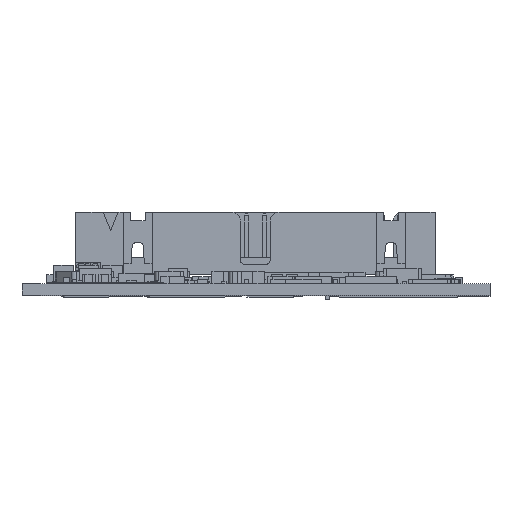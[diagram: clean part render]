
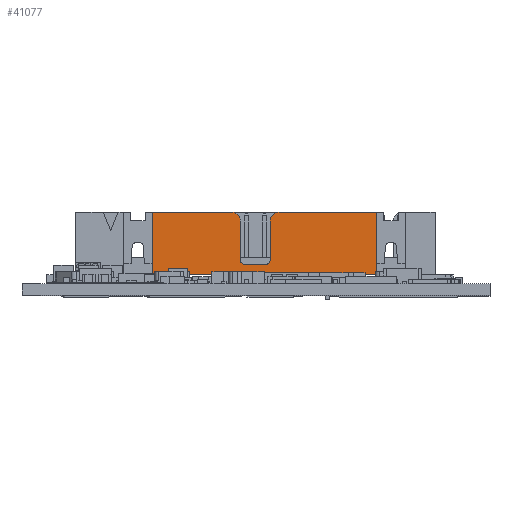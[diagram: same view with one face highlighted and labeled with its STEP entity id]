
A CAD part, top view. The second image highlights one B-rep face of the part: STEP entity #41077.
In plain terms, the highlighted planar face has unit normal (0, 0, 1).
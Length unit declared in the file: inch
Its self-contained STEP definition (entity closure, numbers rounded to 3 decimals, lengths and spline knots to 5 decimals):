
#10382=DIRECTION('',(-1.,0.,0.));
#10383=VECTOR('',#10382,0.4375);
#10384=CARTESIAN_POINT('',(-0.13632,0.46299,
-0.67725));
#10385=LINE('',#10384,#10383);
#10386=CARTESIAN_POINT('',(-0.13632,0.41299,
-0.67725));
#10387=DIRECTION('',(0.,0.,1.));
#10388=DIRECTION('',(1.,0.,0.));
#10389=AXIS2_PLACEMENT_3D('',#10386,#10387,#10388);
#10391=DIRECTION('',(0.,1.,0.));
#10392=VECTOR('',#10391,0.215);
#10393=CARTESIAN_POINT('',(-0.08632,0.19799,
-0.67725));
#10394=LINE('',#10393,#10392);
#10395=CARTESIAN_POINT('',(-0.06132,0.19799,
-0.67725));
#10396=DIRECTION('',(0.,0.,-1.));
#10397=DIRECTION('',(0.,-1.,0.));
#10398=AXIS2_PLACEMENT_3D('',#10395,#10396,#10397);
#10400=DIRECTION('',(-1.,0.,0.));
#10401=VECTOR('',#10400,0.115);
#10402=CARTESIAN_POINT('',(0.05368,0.17299,
-0.67725));
#10403=LINE('',#10402,#10401);
#10404=CARTESIAN_POINT('',(0.05368,0.19799,
-0.67725));
#10405=DIRECTION('',(0.,0.,-1.));
#10406=DIRECTION('',(1.,0.,0.));
#10407=AXIS2_PLACEMENT_3D('',#10404,#10405,#10406);
#10409=CARTESIAN_POINT('',(0.12868,0.41299,
-0.67725));
#10410=DIRECTION('',(0.,0.,1.));
#10411=DIRECTION('',(0.,1.,0.));
#10412=AXIS2_PLACEMENT_3D('',#10409,#10410,#10411);
#10414=DIRECTION('',(-1.,0.,0.));
#10415=VECTOR('',#10414,0.5375);
#10416=CARTESIAN_POINT('',(0.66618,0.46299,
-0.67725));
#10417=LINE('',#10416,#10415);
#10418=DIRECTION('',(0.,1.,0.));
#10419=VECTOR('',#10418,0.347);
#10420=CARTESIAN_POINT('',(0.66618,0.11599,
-0.67725));
#10421=LINE('',#10420,#10419);
#10422=DIRECTION('',(1.,0.,0.));
#10423=VECTOR('',#10422,1.24);
#10424=CARTESIAN_POINT('',(-0.57382,0.11599,
-0.67725));
#10425=LINE('',#10424,#10423);
#10426=DIRECTION('',(0.,1.,0.));
#10427=VECTOR('',#10426,0.347);
#10428=CARTESIAN_POINT('',(-0.57382,0.11599,
-0.67725));
#10429=LINE('',#10428,#10427);
#10902=DIRECTION('',(0.,1.,0.));
#10903=VECTOR('',#10902,0.215);
#10904=CARTESIAN_POINT('',(0.07868,0.19799,
-0.67725));
#10905=LINE('',#10904,#10903);
#24048=CARTESIAN_POINT('',(0.66618,0.11599,
-0.67725));
#24049=VERTEX_POINT('',#24048);
#24050=CARTESIAN_POINT('',(-0.57382,0.11599,
-0.67725));
#24051=VERTEX_POINT('',#24050);
#24319=CARTESIAN_POINT('',(-0.08632,0.41299,
-0.67725));
#24320=CARTESIAN_POINT('',(-0.13632,0.46299,
-0.67725));
#24321=VERTEX_POINT('',#24319);
#24322=VERTEX_POINT('',#24320);
#24343=CARTESIAN_POINT('',(-0.57382,0.46299,
-0.67725));
#24344=VERTEX_POINT('',#24343);
#24413=CARTESIAN_POINT('',(-0.08632,0.19799,
-0.67725));
#24414=VERTEX_POINT('',#24413);
#24421=CARTESIAN_POINT('',(0.66618,0.46299,
-0.67725));
#24422=VERTEX_POINT('',#24421);
#24423=CARTESIAN_POINT('',(0.12868,0.46299,
-0.67725));
#24424=VERTEX_POINT('',#24423);
#24425=CARTESIAN_POINT('',(0.07868,0.41299,
-0.67725));
#24426=VERTEX_POINT('',#24425);
#24427=CARTESIAN_POINT('',(0.07868,0.19799,
-0.67725));
#24428=VERTEX_POINT('',#24427);
#24429=CARTESIAN_POINT('',(0.05368,0.17299,
-0.67725));
#24430=VERTEX_POINT('',#24429);
#24431=CARTESIAN_POINT('',(-0.06132,0.17299,
-0.67725));
#24432=VERTEX_POINT('',#24431);
#41048=CARTESIAN_POINT('',(-0.00382,0.28949,
-0.67725));
#41049=DIRECTION('',(0.,0.,1.));
#41050=DIRECTION('',(1.,0.,0.));
#41051=AXIS2_PLACEMENT_3D('',#41048,#41049,#41050);
#41052=PLANE('',#41051);
#41054=ORIENTED_EDGE('',*,*,#41053,.T.);
#41055=ORIENTED_EDGE('',*,*,#41034,.F.);
#41057=ORIENTED_EDGE('',*,*,#41056,.F.);
#41059=ORIENTED_EDGE('',*,*,#41058,.F.);
#41061=ORIENTED_EDGE('',*,*,#41060,.F.);
#41063=ORIENTED_EDGE('',*,*,#41062,.F.);
#41065=ORIENTED_EDGE('',*,*,#41064,.F.);
#41067=ORIENTED_EDGE('',*,*,#41066,.T.);
#41069=ORIENTED_EDGE('',*,*,#41068,.F.);
#41071=ORIENTED_EDGE('',*,*,#41070,.F.);
#41073=ORIENTED_EDGE('',*,*,#41072,.F.);
#41074=ORIENTED_EDGE('',*,*,#40016,.F.);
#41075=EDGE_LOOP('',(#41054,#41055,#41057,#41059,#41061,#41063,#41065,#41067,
#41069,#41071,#41073,#41074));
#41076=FACE_OUTER_BOUND('',#41075,.F.);
#41077=ADVANCED_FACE('',(#41076),#41052,.T.);
#10390=CIRCLE('',#10389,0.05);
#10399=CIRCLE('',#10398,0.025);
#10408=CIRCLE('',#10407,0.025);
#10413=CIRCLE('',#10412,0.05);
#40016=EDGE_CURVE('',#24051,#24049,#10425,.T.);
#41034=EDGE_CURVE('',#24322,#24344,#10385,.T.);
#41053=EDGE_CURVE('',#24051,#24344,#10429,.T.);
#41056=EDGE_CURVE('',#24321,#24322,#10390,.T.);
#41058=EDGE_CURVE('',#24414,#24321,#10394,.T.);
#41060=EDGE_CURVE('',#24432,#24414,#10399,.T.);
#41062=EDGE_CURVE('',#24430,#24432,#10403,.T.);
#41064=EDGE_CURVE('',#24428,#24430,#10408,.T.);
#41066=EDGE_CURVE('',#24428,#24426,#10905,.T.);
#41068=EDGE_CURVE('',#24424,#24426,#10413,.T.);
#41070=EDGE_CURVE('',#24422,#24424,#10417,.T.);
#41072=EDGE_CURVE('',#24049,#24422,#10421,.T.);
